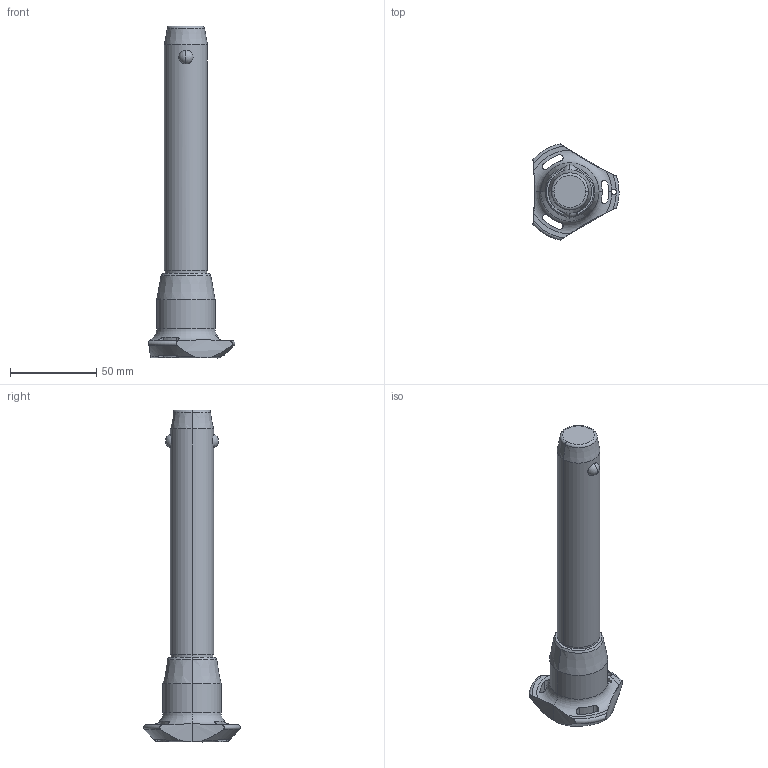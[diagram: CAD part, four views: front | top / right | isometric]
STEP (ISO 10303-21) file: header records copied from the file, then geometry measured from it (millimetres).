
FILE_DESCRIPTION (( 'STEP AP203' ), '1' );
FILE_NAME ('QR1734.M25-120-S.step', '2025-11-12T14:47:04', ( '' ), ( '' ), 'SwSTEP 2.0', 'SolidWorks 2019', '' );
FILE_SCHEMA (( 'CONFIG_CONTROL_DESIGN' ));
Length unit declared in the file: millimetre
Products named in the file (1): QR1734.M25-120-S
Bounding box: 50.05 x 56.02 x 192.7 mm (x, y, z)
Volume: 117358.4 mm3; surface area: 20874 mm2
Topology: 1 solids, 1 shells, 65 faces, 176 edges, 111 vertices
Faces by surface type: cylinder 30, cone 14, torus 11, sphere 6, plane 4
Entity records: 2858 total; most frequent: CARTESIAN_POINT 1179, ORIENTED_EDGE 352, DIRECTION 329, EDGE_CURVE 176, AXIS2_PLACEMENT_3D 147, VERTEX_POINT 111, CIRCLE 81, EDGE_LOOP 71
